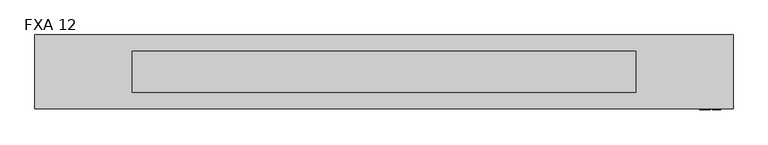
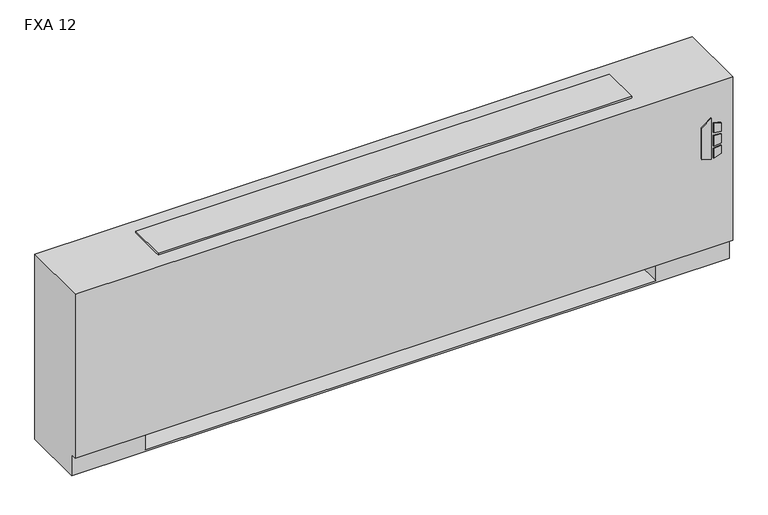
"""IFC4 building model written with IfcOpenShell, lengths in millimetres: proxy geometry, Vertical_Fan_Coil_Unit_-_FXA_-_IEC_-_4-Pipe_TS-FR_RH_2022 : FXA 12."""

from ifc_helpers import new_model, si_unit, point, frame, frame_2d, origin, place, context, project, spatial, polyline, circle_curve, trimmed, segment, composite_curve, outline, extrude, source, transform, mapped, element, save
from ifc_brep_helpers import plane_surface, revolved_surface, advanced_brep


def fxa_12_ceffada1(model_context):
    return source(origin(), model_context, "Body", "SolidModel", [
        extrude(outline(polyline([(391.6086829, 1128.7868862), (381.6606126, 1160.9602728), (523.831537, 1160.9602728), (500.8095309, 1128.7868862), (391.6086829, 1128.7868862)])), frame((0.0, 12.7, 0.0), z_axis=(0.0, 1.0, 0.0), x_axis=(0.0, 0.0, 1.0)), (0.0, 0.0, 1.0), 3.175),
        extrude(outline(polyline([(470.6079683, 1167.7186058), (467.4055757, 1193.8), (496.6344168, 1193.8), (504.6988318, 1167.7186058), (470.6079683, 1167.7186058)])), frame((0.0, 12.7, 0.0), z_axis=(0.0, 1.0, 0.0), x_axis=(0.0, 0.0, 1.0)), (0.0, 0.0, 1.0), 3.175),
        extrude(outline(polyline([(418.7444414, 1193.8), (415.0789404, 1167.7186058), (381.6606126, 1167.7186058), (390.2948498, 1193.8), (418.7444414, 1193.8)])), frame((0.0, 12.7, 0.0), z_axis=(0.0, 1.0, 0.0), x_axis=(0.0, 0.0, 1.0)), (0.0, 0.0, 1.0), 3.175),
        extrude(outline(polyline([(458.0596028, 1193.8), (460.3414292, 1167.7186058), (424.4038806, 1167.7186058), (427.1451456, 1193.8), (458.0596028, 1193.8)])), frame((0.0, 12.7, 0.0), z_axis=(0.0, 1.0, 0.0), x_axis=(0.0, 0.0, 1.0)), (0.0, 0.0, 1.0), 3.175),
        extrude(outline(polyline([(-806.45, 81.534), (-806.45, 223.266), (-685.8, 223.266), (-685.8, 81.534), (-806.45, 81.534)])), frame((0.0, 0.0, 327.025), z_axis=(0.0, 0.0, 1.0), x_axis=(1.0, 0.0, 0.0)), (0.0, 0.0, 1.0), 260.35),
        extrude(outline(composite_curve([segment(trimmed(circle_curve(frame_2d((1054.1, 130.175)), 9.525), [point((1044.575, 130.175))], [point((1063.625, 130.175))], False, "CARTESIAN"), True, "CONTINUOUS"), segment(trimmed(circle_curve(frame_2d((1054.1, 130.175)), 9.525), [point((1063.625, 130.175))], [point((1044.575, 130.175))], False, "CARTESIAN"), True, "CONTINUOUS")], self_intersect=False)), frame((0.0, 0.0, 101.6), z_axis=(0.0, 0.0, 1.0), x_axis=(1.0, 0.0, 0.0)), (0.0, 0.0, 1.0), 25.4),
        extrude(outline(polyline([(1149.35, 196.85), (1149.35, 63.5), (990.6, 63.5), (990.6, 196.85), (1149.35, 196.85)])), frame((0.0, 0.0, 127.0), z_axis=(0.0, 0.0, 1.0), x_axis=(1.0, 0.0, 0.0)), (0.0, 0.0, 1.0), 50.8),
        extrude(outline(composite_curve([segment(trimmed(circle_curve(frame_2d((109.0168, 457.2)), 7.9375), [point((109.0168, 465.1375))], [point((109.0168, 449.2625))], False, "CARTESIAN"), True, "CONTINUOUS"), segment(trimmed(circle_curve(frame_2d((109.0168, 457.2)), 7.9375), [point((109.0168, 449.2625))], [point((109.0168, 465.1375))], False, "CARTESIAN"), True, "CONTINUOUS")], self_intersect=False)), frame((990.6, 0.0, 0.0), z_axis=(1.0, 0.0, 0.0), x_axis=(0.0, 1.0, 0.0)), (0.0, 0.0, 1.0), 50.8),
        extrude(outline(composite_curve([segment(trimmed(circle_curve(frame_2d((172.085, 460.0194)), 7.9375), [point((172.085, 467.9569))], [point((172.085, 452.0819))], False, "CARTESIAN"), True, "CONTINUOUS"), segment(trimmed(circle_curve(frame_2d((172.085, 460.0194)), 7.9375), [point((172.085, 452.0819))], [point((172.085, 467.9569))], False, "CARTESIAN"), True, "CONTINUOUS")], self_intersect=False)), frame((990.6, 0.0, 0.0), z_axis=(1.0, 0.0, 0.0), x_axis=(0.0, 1.0, 0.0)), (0.0, 0.0, 1.0), 50.8),
        extrude(outline(composite_curve([segment(trimmed(circle_curve(frame_2d((130.175, 554.99)), 7.9502), [point((130.175, 562.9402))], [point((130.175, 547.0398))], False, "CARTESIAN"), True, "CONTINUOUS"), segment(trimmed(circle_curve(frame_2d((130.175, 554.99)), 7.9502), [point((130.175, 547.0398))], [point((130.175, 562.9402))], False, "CARTESIAN"), True, "CONTINUOUS")], self_intersect=False)), frame((990.6, 0.0, 0.0), z_axis=(1.0, 0.0, 0.0), x_axis=(0.0, 1.0, 0.0)), (0.0, 0.0, 1.0), 50.8),
        extrude(outline(composite_curve([segment(trimmed(circle_curve(frame_2d((53.975, 416.56)), 7.9502), [point((53.975, 424.5102))], [point((53.975, 408.6098))], False, "CARTESIAN"), True, "CONTINUOUS"), segment(trimmed(circle_curve(frame_2d((53.975, 416.56)), 7.9502), [point((53.975, 408.6098))], [point((53.975, 424.5102))], False, "CARTESIAN"), True, "CONTINUOUS")], self_intersect=False)), frame((990.6, 0.0, 0.0), z_axis=(1.0, 0.0, 0.0), x_axis=(0.0, 1.0, 0.0)), (0.0, 0.0, 1.0), 50.8),
        advanced_brep(
        [(1231.9, 244.475, 641.35), (-927.1, 244.475, 641.35), (-927.1, 15.875, 641.35), (1231.9, 15.875, 641.35), (-927.1, 244.475, 0.0), (1231.9, 244.475, 0.0), (1231.9, 34.925, 0.0), (-927.1, 34.925, 0.0), (990.6, 244.475, 73.025), (1219.2, 244.475, 73.025), (1219.2, 244.475, 628.65), (990.6, 244.475, 628.65), (990.6, 244.475, 414.8650565), (1019.175, 244.475, 414.8650565), (1019.175, 244.475, 385.2349435), (990.6, 244.475, 385.2349435), (990.6, 244.475, 287.3375), (1019.175, 244.475, 287.3375), (1019.175, 244.475, 258.7625), (990.6, 244.475, 258.7625), (990.6, 244.475, 141.2875), (1019.175, 244.475, 141.2875), (1019.175, 244.475, 112.7125), (990.6, 244.475, 112.7125), (-685.8, 244.475, 628.65), (-914.4, 244.475, 628.65), (-914.4, 244.475, 73.025), (-685.8, 244.475, 73.025), (-685.8, 244.475, 112.7125), (-714.375, 244.475, 112.7125), (-714.375, 244.475, 141.2875), (-685.8, 244.475, 141.2875), (-685.8, 244.475, 258.7625), (-714.375, 244.475, 258.7625), (-714.375, 244.475, 287.3375), (-685.8, 244.475, 287.3375), (-685.8, 244.475, 385.2349435), (-714.375, 244.475, 385.2349435), (-714.375, 244.475, 414.8650565), (-685.8, 244.475, 414.8650565), (1008.8626, 244.475, 127.0), (997.7374, 244.475, 127.0), (1008.8626, 244.475, 400.05), (997.7374, 244.475, 400.05), (1008.8626, 244.475, 273.05), (997.7374, 244.475, 273.05), (-692.9374, 244.475, 127.0), (-704.0626, 244.475, 127.0), (-692.9374, 244.475, 273.05), (-704.0626, 244.475, 273.05), (-692.9374, 244.475, 400.05), (-704.0626, 244.475, 400.05), (-927.1, 34.925, 73.025), (-927.1, 15.875, 73.025), (1231.9, 15.875, 73.025), (1231.9, 34.925, 73.025), (-685.8, 34.925, 73.025), (-685.8, 219.075, 73.025), (990.6, 219.075, 73.025), (990.6, 34.925, 73.025), (990.6, 34.925, 6.35), (-685.8, 34.925, 6.35), (990.6, 41.275, 628.65), (1219.2, 41.275, 628.65), (1219.2, 41.275, 73.025), (990.6, 41.275, 73.025), (-685.8, 41.275, 628.65), (-685.8, 41.275, 73.025), (-914.4, 41.275, 73.025), (-914.4, 41.275, 628.65), (990.6, 219.075, 73.025), (990.6, 238.125, 112.7125), (990.6, 238.125, 141.2875), (990.6, 238.125, 258.7625), (990.6, 238.125, 287.3375), (990.6, 238.125, 385.2349435), (990.6, 238.125, 414.8650565), (-685.8, 219.075, 73.025), (-685.8, 238.125, 414.8650565), (-685.8, 238.125, 385.2349435), (-685.8, 238.125, 287.3375), (-685.8, 238.125, 258.7625), (-685.8, 238.125, 141.2875), (-685.8, 238.125, 112.7125), (-685.8, 219.075, 6.35), (990.6, 219.075, 6.35), (1019.175, 238.125, 112.7125), (1019.175, 238.125, 141.2875), (997.7374, 238.125, 127.0), (1008.8626, 238.125, 127.0), (1019.175, 238.125, 258.7625), (1019.175, 238.125, 287.3375), (997.7374, 238.125, 273.05), (1008.8626, 238.125, 273.05), (1019.175, 238.125, 385.2349435), (1019.175, 238.125, 414.8650565), (997.7374, 238.125, 400.05), (1008.8626, 238.125, 400.05), (-714.375, 238.125, 141.2875), (-714.375, 238.125, 112.7125), (-704.0626, 238.125, 127.0), (-692.9374, 238.125, 127.0), (-714.375, 238.125, 287.3375), (-714.375, 238.125, 258.7625), (-704.0626, 238.125, 273.05), (-692.9374, 238.125, 273.05), (-714.375, 238.125, 414.8650565), (-714.375, 238.125, 385.2349435), (-704.0626, 238.125, 400.05), (-692.9374, 238.125, 400.05)],
        [
            (0, 1),
            (1, 2),
            (2, 3),
            (3, 0),
            (4, 5),
            (5, 6),
            (6, 7),
            (7, 4),
            (0, 5),
            (4, 1),
            (8, 9),
            (9, 10),
            (10, 11),
            (11, 12),
            (12, 13),
            (13, 14),
            (14, 15),
            (15, 16),
            (16, 17),
            (17, 18),
            (18, 19),
            (19, 20),
            (20, 21),
            (21, 22),
            (22, 23),
            (23, 8),
            (24, 25),
            (25, 26),
            (26, 27),
            (27, 28),
            (28, 29),
            (29, 30),
            (30, 31),
            (31, 32),
            (32, 33),
            (33, 34),
            (34, 35),
            (35, 36),
            (36, 37),
            (37, 38),
            (38, 39),
            (39, 24),
            (40, 41, circle_curve(frame((1003.3, 244.475, 127.0), z_axis=(0.0, -1.0, 0.0), x_axis=(-1.0, 0.0, 0.0)), 5.5626)),
            (41, 40, circle_curve(frame((1003.3, 244.475, 127.0), z_axis=(0.0, -1.0, 0.0), x_axis=(-1.0, 0.0, 0.0)), 5.5626)),
            (42, 43, circle_curve(frame((1003.3, 244.475, 400.05), z_axis=(0.0, -1.0, 0.0), x_axis=(-1.0, 0.0, 0.0)), 5.5626)),
            (43, 42, circle_curve(frame((1003.3, 244.475, 400.05), z_axis=(0.0, -1.0, 0.0), x_axis=(-1.0, 0.0, 0.0)), 5.5626)),
            (44, 45, circle_curve(frame((1003.3, 244.475, 273.05), z_axis=(0.0, -1.0, 0.0), x_axis=(-1.0, 0.0, 0.0)), 5.5626)),
            (45, 44, circle_curve(frame((1003.3, 244.475, 273.05), z_axis=(0.0, -1.0, 0.0), x_axis=(-1.0, 0.0, 0.0)), 5.5626)),
            (46, 47, circle_curve(frame((-698.5, 244.475, 127.0), z_axis=(0.0, -1.0, 0.0), x_axis=(-1.0, 0.0, 0.0)), 5.5626)),
            (47, 46, circle_curve(frame((-698.5, 244.475, 127.0), z_axis=(0.0, -1.0, 0.0), x_axis=(-1.0, 0.0, 0.0)), 5.5626)),
            (48, 49, circle_curve(frame((-698.5, 244.475, 273.05), z_axis=(0.0, -1.0, 0.0), x_axis=(-1.0, 0.0, 0.0)), 5.5626)),
            (49, 48, circle_curve(frame((-698.5, 244.475, 273.05), z_axis=(0.0, -1.0, 0.0), x_axis=(-1.0, 0.0, 0.0)), 5.5626)),
            (50, 51, circle_curve(frame((-698.5, 244.475, 400.05), z_axis=(0.0, -1.0, 0.0), x_axis=(-1.0, 0.0, 0.0)), 5.5626)),
            (51, 50, circle_curve(frame((-698.5, 244.475, 400.05), z_axis=(0.0, -1.0, 0.0), x_axis=(-1.0, 0.0, 0.0)), 5.5626)),
            (7, 52),
            (52, 53),
            (53, 2),
            (53, 54),
            (54, 3),
            (54, 55),
            (55, 6),
            (52, 56),
            (56, 57),
            (57, 58),
            (58, 59),
            (59, 55),
            (59, 60),
            (60, 61),
            (61, 56),
            (62, 63),
            (63, 64),
            (64, 65),
            (65, 62),
            (66, 67),
            (67, 68),
            (68, 69),
            (69, 66),
            (65, 70),
            (70, 8),
            (23, 71),
            (71, 72),
            (72, 20),
            (19, 73),
            (73, 74),
            (74, 16),
            (15, 75),
            (75, 76),
            (76, 12),
            (11, 62),
            (64, 9),
            (63, 10),
            (69, 25),
            (24, 66),
            (68, 26),
            (67, 77),
            (77, 27),
            (39, 78),
            (78, 79),
            (79, 36),
            (35, 80),
            (80, 81),
            (81, 32),
            (31, 82),
            (82, 83),
            (83, 28),
            (57, 84),
            (84, 85),
            (85, 58),
            (85, 60),
            (84, 61),
            (71, 86),
            (86, 87),
            (87, 72),
            (88, 89, circle_curve(frame((1003.3, 238.125, 127.0), z_axis=(0.0, 1.0, 0.0), x_axis=(-1.0, 0.0, 0.0)), 5.5626)),
            (89, 88, circle_curve(frame((1003.3, 238.125, 127.0), z_axis=(0.0, 1.0, 0.0), x_axis=(-1.0, 0.0, 0.0)), 5.5626)),
            (73, 90),
            (90, 91),
            (91, 74),
            (92, 93, circle_curve(frame((1003.3, 238.125, 273.05), z_axis=(0.0, 1.0, 0.0), x_axis=(-1.0, 0.0, 0.0)), 5.5626)),
            (93, 92, circle_curve(frame((1003.3, 238.125, 273.05), z_axis=(0.0, 1.0, 0.0), x_axis=(-1.0, 0.0, 0.0)), 5.5626)),
            (75, 94),
            (94, 95),
            (95, 76),
            (96, 97, circle_curve(frame((1003.3, 238.125, 400.05), z_axis=(0.0, 1.0, 0.0), x_axis=(-1.0, 0.0, 0.0)), 5.5626)),
            (97, 96, circle_curve(frame((1003.3, 238.125, 400.05), z_axis=(0.0, 1.0, 0.0), x_axis=(-1.0, 0.0, 0.0)), 5.5626)),
            (98, 99),
            (99, 83),
            (82, 98),
            (100, 101, circle_curve(frame((-698.5, 238.125, 127.0), z_axis=(0.0, 1.0, 0.0), x_axis=(-1.0, 0.0, 0.0)), 5.5626)),
            (101, 100, circle_curve(frame((-698.5, 238.125, 127.0), z_axis=(0.0, 1.0, 0.0), x_axis=(-1.0, 0.0, 0.0)), 5.5626)),
            (102, 103),
            (103, 81),
            (80, 102),
            (104, 105, circle_curve(frame((-698.5, 238.125, 273.05), z_axis=(0.0, 1.0, 0.0), x_axis=(-1.0, 0.0, 0.0)), 5.5626)),
            (105, 104, circle_curve(frame((-698.5, 238.125, 273.05), z_axis=(0.0, 1.0, 0.0), x_axis=(-1.0, 0.0, 0.0)), 5.5626)),
            (106, 107),
            (107, 79),
            (78, 106),
            (108, 109, circle_curve(frame((-698.5, 238.125, 400.05), z_axis=(0.0, 1.0, 0.0), x_axis=(-1.0, 0.0, 0.0)), 5.5626)),
            (109, 108, circle_curve(frame((-698.5, 238.125, 400.05), z_axis=(0.0, 1.0, 0.0), x_axis=(-1.0, 0.0, 0.0)), 5.5626)),
            (87, 21),
            (86, 22),
            (91, 17),
            (90, 18),
            (95, 13),
            (94, 14),
            (30, 98),
            (99, 29),
            (34, 102),
            (103, 33),
            (38, 106),
            (107, 37),
            (88, 41),
            (40, 89),
            (96, 43),
            (42, 97),
            (92, 45),
            (44, 93),
            (100, 47),
            (46, 101),
            (104, 49),
            (48, 105),
            (108, 51),
            (50, 109),
        ],
        [
            plane_surface(frame((-927.1, 244.475, 641.35), z_axis=(0.0, 0.0, 1.0), x_axis=(-1.0, 0.0, 0.0))),
            plane_surface(frame((-927.1, 244.475, 0.0), z_axis=(0.0, 0.0, -1.0), x_axis=(1.0, 0.0, 0.0))),
            plane_surface(frame((1231.9, 244.475, 641.35), z_axis=(0.0, 1.0, 0.0), x_axis=(0.0, 0.0, -1.0))),
            plane_surface(frame((-927.1, 244.475, 641.35), z_axis=(-1.0, 0.0, 0.0), x_axis=(0.0, 0.0, -1.0))),
            plane_surface(frame((-927.1, 15.875, 641.35), z_axis=(0.0, -1.0, 0.0), x_axis=(0.0, 0.0, -1.0))),
            plane_surface(frame((1231.9, 15.875, 641.35), z_axis=(1.0, 0.0, 0.0), x_axis=(0.0, 0.0, -1.0))),
            plane_surface(frame((-927.1, 15.875, 73.025), z_axis=(0.0, 0.0, -1.0), x_axis=(1.0, 0.0, 0.0))),
            plane_surface(frame((-927.1, 34.925, 73.025), z_axis=(0.0, -1.0, 0.0), x_axis=(1.0, 0.0, 0.0))),
            plane_surface(frame((990.6, 41.275, 628.65), z_axis=(0.0, 1.0, 0.0), x_axis=(0.0, 0.0, -1.0))),
            plane_surface(frame((990.6, 41.275, 628.65), z_axis=(1.0, 0.0, 0.0), x_axis=(0.0, 1.0, 0.0))),
            plane_surface(frame((990.6, 41.275, 73.025), z_axis=(0.0, 0.0, 1.0), x_axis=(0.0, 1.0, 0.0))),
            plane_surface(frame((1219.2, 41.275, 73.025), z_axis=(-1.0, 0.0, 0.0), x_axis=(0.0, 1.0, 0.0))),
            plane_surface(frame((1219.2, 41.275, 628.65), z_axis=(0.0, 0.0, -1.0), x_axis=(0.0, 1.0, 0.0))),
            plane_surface(frame((-685.8, 41.275, 628.65), z_axis=(0.0, 0.0, -1.0), x_axis=(0.0, 1.0, 0.0))),
            plane_surface(frame((-914.4, 41.275, 628.65), z_axis=(1.0, 0.0, 0.0), x_axis=(0.0, 1.0, 0.0))),
            plane_surface(frame((-914.4, 41.275, 73.025), z_axis=(0.0, 0.0, 1.0), x_axis=(0.0, 1.0, 0.0))),
            plane_surface(frame((-685.8, 41.275, 73.025), z_axis=(-1.0, 0.0, 0.0), x_axis=(0.0, 1.0, 0.0))),
            plane_surface(frame((990.6, 219.075, 73.025), z_axis=(0.0, -1.0, 0.0), x_axis=(0.0, 0.0, -1.0))),
            plane_surface(frame((990.6, 219.075, 73.025), z_axis=(-1.0, 0.0, 0.0), x_axis=(0.0, -1.0, 0.0))),
            plane_surface(frame((990.6, 219.075, 6.35), z_axis=(0.0, 0.0, 1.0), x_axis=(0.0, -1.0, 0.0))),
            plane_surface(frame((-685.8, 219.075, 6.35), z_axis=(1.0, 0.0, 0.0), x_axis=(0.0, -1.0, 0.0))),
            plane_surface(frame((1019.175, 238.125, 141.2875), z_axis=(0.0, -1.0, 0.0), x_axis=(-1.0, 0.0, 0.0))),
            plane_surface(frame((990.6, 244.475, 141.2875), z_axis=(0.0, 0.0, 1.0), x_axis=(0.0, -1.0, 0.0))),
            plane_surface(frame((1019.175, 244.475, 141.2875), z_axis=(1.0, 0.0, 0.0), x_axis=(0.0, -1.0, 0.0))),
            plane_surface(frame((1019.175, 244.475, 112.7125), z_axis=(0.0, 0.0, -1.0), x_axis=(0.0, -1.0, 0.0))),
            plane_surface(frame((990.6, 244.475, 287.3375), z_axis=(0.0, 0.0, 1.0), x_axis=(0.0, -1.0, 0.0))),
            plane_surface(frame((1019.175, 244.475, 287.3375), z_axis=(1.0, 0.0, 0.0), x_axis=(0.0, -1.0, 0.0))),
            plane_surface(frame((1019.175, 244.475, 258.7625), z_axis=(0.0, 0.0, -1.0), x_axis=(0.0, -1.0, 0.0))),
            plane_surface(frame((990.6, 244.475, 414.8650565), z_axis=(0.0, 0.0, 1.0), x_axis=(0.0, -1.0, 0.0))),
            plane_surface(frame((1019.175, 244.475, 414.8650565), z_axis=(1.0, 0.0, 0.0), x_axis=(0.0, -1.0, 0.0))),
            plane_surface(frame((1019.175, 244.475, 385.2349435), z_axis=(0.0, 0.0, -1.0), x_axis=(0.0, -1.0, 0.0))),
            plane_surface(frame((-714.375, 244.475, 141.2875), z_axis=(0.0, 0.0, 1.0), x_axis=(0.0, -1.0, 0.0))),
            plane_surface(frame((-685.8, 244.475, 112.7125), z_axis=(0.0, 0.0, -1.0), x_axis=(0.0, -1.0, 0.0))),
            plane_surface(frame((-714.375, 244.475, 112.7125), z_axis=(-1.0, 0.0, 0.0), x_axis=(0.0, -1.0, 0.0))),
            plane_surface(frame((-714.375, 244.475, 287.3375), z_axis=(0.0, 0.0, 1.0), x_axis=(0.0, -1.0, 0.0))),
            plane_surface(frame((-685.8, 244.475, 258.7625), z_axis=(0.0, 0.0, -1.0), x_axis=(0.0, -1.0, 0.0))),
            plane_surface(frame((-714.375, 244.475, 258.7625), z_axis=(-1.0, 0.0, 0.0), x_axis=(0.0, -1.0, 0.0))),
            plane_surface(frame((-714.375, 244.475, 414.8650565), z_axis=(0.0, 0.0, 1.0), x_axis=(0.0, -1.0, 0.0))),
            plane_surface(frame((-685.8, 244.475, 385.2349435), z_axis=(0.0, 0.0, -1.0), x_axis=(0.0, -1.0, 0.0))),
            plane_surface(frame((-714.375, 244.475, 385.2349435), z_axis=(-1.0, 0.0, 0.0), x_axis=(0.0, -1.0, 0.0))),
            revolved_surface(polyline([(997.7374, 238.125, 127.0), (997.7374, 244.475, 127.0)]), (1003.3, 244.475, 127.0), (0.0, -1.0, 0.0)),
            revolved_surface(polyline([(997.7374, 238.125, 400.05), (997.7374, 244.475, 400.05)]), (1003.3, 244.475, 400.05), (0.0, -1.0, 0.0)),
            revolved_surface(polyline([(997.7374, 238.125, 273.05), (997.7374, 244.475, 273.05)]), (1003.3, 244.475, 273.05), (0.0, -1.0, 0.0)),
            revolved_surface(polyline([(-704.0626, 238.125, 127.0), (-704.0626, 244.475, 127.0)]), (-698.5, 244.475, 127.0), (0.0, -1.0, 0.0)),
            revolved_surface(polyline([(-704.0626, 238.125, 273.05), (-704.0626, 244.475, 273.05)]), (-698.5, 244.475, 273.05), (0.0, -1.0, 0.0)),
            revolved_surface(polyline([(-704.0626, 238.125, 400.05), (-704.0626, 244.475, 400.05)]), (-698.5, 244.475, 400.05), (0.0, -1.0, 0.0)),
        ],
        [
            (0, [[1, 2, 3, 4]]),
            (1, [[5, 6, 7, 8]]),
            (2, [[-1, 9, -5, 10], [11, 12, 13, 14, 15, 16, 17, 18, 19, 20, 21, 22, 23, 24, 25, 26], [27, 28, 29, 30, 31, 32, 33, 34, 35, 36, 37, 38, 39, 40, 41, 42], [43, 44], [45, 46], [47, 48], [49, 50], [51, 52], [53, 54]]),
            (3, [[-2, -10, -8, 55, 56, 57]]),
            (4, [[-3, -57, 58, 59]]),
            (5, [[-4, -59, 60, 61, -6, -9]]),
            (6, [[-56, 62, 63, 64, 65, 66, -60, -58]]),
            (7, [[-7, -61, -66, 67, 68, 69, -62, -55]]),
            (8, [[70, 71, 72, 73]]),
            (8, [[74, 75, 76, 77]]),
            (9, [[-73, 78, 79, -26, 80, 81, 82, -22, 83, 84, 85, -18, 86, 87, 88, -14, 89]]),
            (10, [[-72, 90, -11, -79, -78]]),
            (11, [[-71, 91, -12, -90]]),
            (12, [[-70, -89, -13, -91]]),
            (13, [[-77, 92, -27, 93]]),
            (14, [[-76, 94, -28, -92]]),
            (15, [[-75, 95, 96, -29, -94]]),
            (16, [[-74, -93, -42, 97, 98, 99, -38, 100, 101, 102, -34, 103, 104, 105, -30, -96, -95]]),
            (17, [[-64, 106, 107, 108]]),
            (18, [[-108, 109, -67, -65]]),
            (19, [[-107, 110, -68, -109]]),
            (20, [[-106, -63, -69, -110]]),
            (21, [[111, 112, 113, -81], [114, 115]]),
            (21, [[116, 117, 118, -84], [119, 120]]),
            (21, [[121, 122, 123, -87], [124, 125]]),
            (21, [[126, 127, -104, 128], [129, 130]]),
            (21, [[131, 132, -101, 133], [134, 135]]),
            (21, [[136, 137, -98, 138], [139, 140]]),
            (22, [[-113, 141, -23, -82]]),
            (23, [[-112, 142, -24, -141]]),
            (24, [[-111, -80, -25, -142]]),
            (25, [[-118, 143, -19, -85]]),
            (26, [[-117, 144, -20, -143]]),
            (27, [[-116, -83, -21, -144]]),
            (28, [[-123, 145, -15, -88]]),
            (29, [[-122, 146, -16, -145]]),
            (30, [[-121, -86, -17, -146]]),
            (31, [[-128, -103, -33, 147]]),
            (32, [[-127, 148, -31, -105]]),
            (33, [[-126, -147, -32, -148]]),
            (34, [[-133, -100, -37, 149]]),
            (35, [[-132, 150, -35, -102]]),
            (36, [[-131, -149, -36, -150]]),
            (37, [[-138, -97, -41, 151]]),
            (38, [[-137, 152, -39, -99]]),
            (39, [[-136, -151, -40, -152]]),
            (40, [[153, -43, 154, -114]]),
            (40, [[-153, -115, -154, -44]]),
            (41, [[155, -45, 156, -124]]),
            (41, [[-155, -125, -156, -46]]),
            (42, [[157, -47, 158, -119]]),
            (42, [[-157, -120, -158, -48]]),
            (43, [[159, -49, 160, -129]]),
            (43, [[-159, -130, -160, -50]]),
            (44, [[161, -51, 162, -134]]),
            (44, [[-161, -135, -162, -52]]),
            (45, [[163, -53, 164, -139]]),
            (45, [[-163, -140, -164, -54]]),
        ],
    ),
        extrude(outline(polyline([(930.275, 193.675), (930.275, 66.675), (-625.475, 66.675), (-625.475, 193.675), (930.275, 193.675)])), frame((0.0, 0.0, 641.35), z_axis=(0.0, 0.0, 1.0), x_axis=(1.0, 0.0, 0.0)), (0.0, 0.0, 1.0), 6.35),
    ])


if __name__ == "__main__":
    model = new_model("IFC4")
    model_context = context("Model", 3, world=origin())
    ifc_project = project(units=[si_unit("LENGTHUNIT", "METRE", prefix="MILLI")], contexts=[model_context])
    site = spatial("IfcSite", under=ifc_project)
    building = spatial("IfcBuilding", under=site)
    placement = place(None, origin())
    fxa_12_shape = fxa_12_ceffada1(model_context)
    element("IfcBuildingElementProxy", 1, Name="Vertical_Fan_Coil_Unit_-_FXA_-_IEC_-_4-Pipe_TS-FR_RH_2022 : FXA 12", ObjectType="Vertical_Fan_Coil_Unit_-_FXA_-_IEC_-_4-Pipe_TS-FR_RH_2022 : FXA 12", at=placement, inside=building, context=model_context, shape_type="MappedRepresentation", body=[
        mapped(fxa_12_shape, transform((0.0, 0.0, 0.0), x_axis=(1.0, 0.0, 0.0), y_axis=(0.0, 1.0, 0.0), z_axis=(0.0, 0.0, 1.0))),
    ])
    save(model, "model.ifc")
